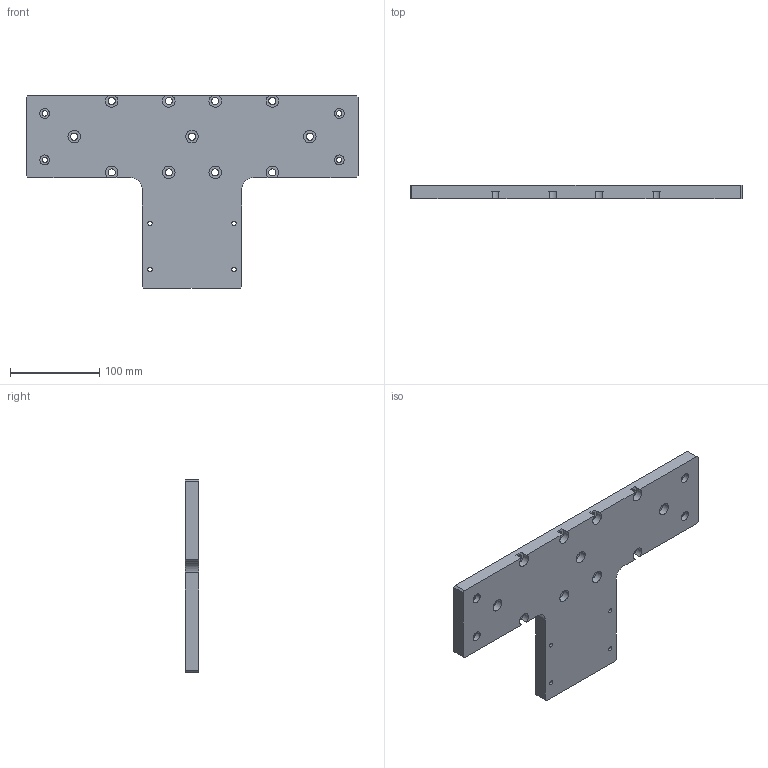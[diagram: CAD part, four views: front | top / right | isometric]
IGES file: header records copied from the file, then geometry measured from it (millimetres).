
Start section:  PTC IGES file: n80-n100m-ft.igs
Global section: file name: n80-n100m-ft.igs; native system: Pro/ENGINEER by Parametric Technology Corporation; preprocessor: 2008230; author: Owner; organization: Unknown; date: 20121212.125843; units: millimetre
Bounding box: 372 x 15 x 216 mm (x, y, z)
Surface area: 119764.9 mm2 (no closed solid volume)
Topology: 0 solids, 0 shells, 95 faces, 504 edges, 504 vertices
Faces by surface type: revolution 64, bspline 31
